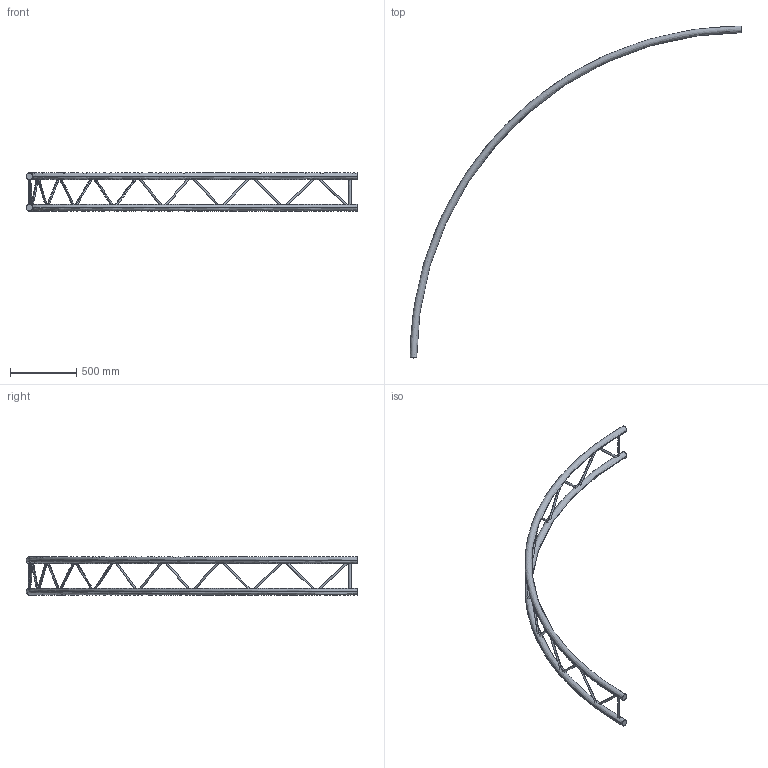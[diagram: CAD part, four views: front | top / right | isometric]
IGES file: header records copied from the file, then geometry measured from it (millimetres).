
Start section: SolidWorks IGES file using analytic representation for surfaces
Global section: file name: K:\BIBLIO\asd_biblio\EX290\Cercles\EXC290V\EXC29500V\EXC29500V.IGS; native system: SolidWorks 2009; preprocessor: SolidWorks 2009; author: des3; date: 091026.102003; units: millimetre
Bounding box: 2500 x 2500 x 287 mm (x, y, z)
Surface area: 1480000.1 mm2 (no closed solid volume)
Topology: 0 solids, 0 shells, 59 faces, 2307 edges, 2307 vertices
Faces by surface type: revolution 34, bspline 25
